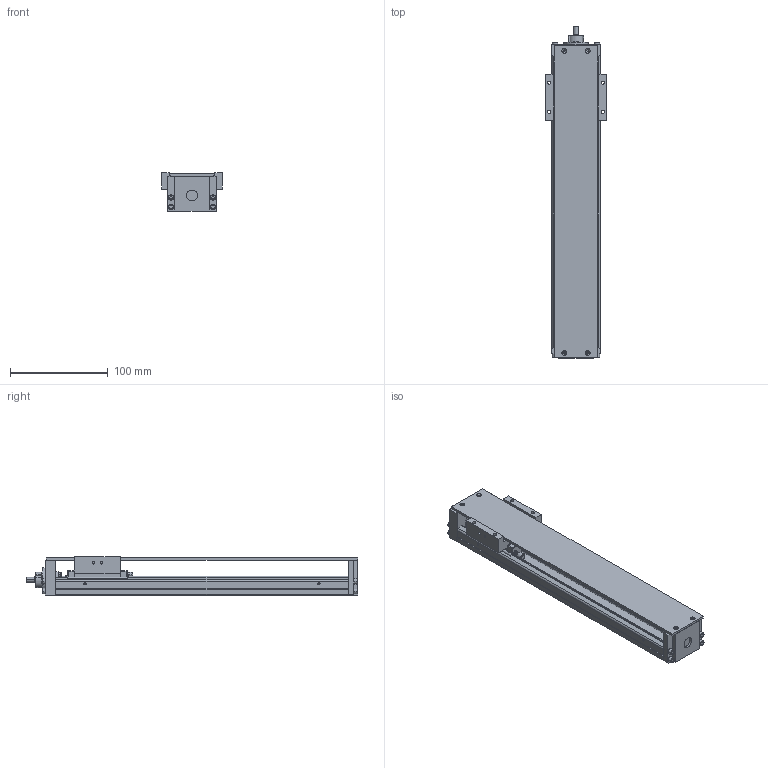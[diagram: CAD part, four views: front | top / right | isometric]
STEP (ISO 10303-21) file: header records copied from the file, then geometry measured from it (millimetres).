
FILE_DESCRIPTION(('no description'),'unknown implementation level');
FILE_NAME('KK5002P300A1H0C00_FILE_15.stp',' ',('HIWIN GmbH'),('CADClick - KiM GmbH - www.kimweb.de'),'unknown preprocess','ACIS','unknown authorization');
FILE_SCHEMA(('automotive_design'));
Length unit declared in the file: millimetre
Products named in the file (2): KK50_FILE; KK5002P300A1H0C00_FILE
Bounding box: 62 x 340.5 x 40 mm (x, y, z)
Volume: 298870.2 mm3; surface area: 116877.3 mm2
Topology: 2 solids, 14 shells, 808 faces, 2014 edges, 1277 vertices
Faces by surface type: plane 475, cylinder 233, cone 58, torus 42
Entity records: 47246 total; most frequent: CARTESIAN_POINT 4707, DIRECTION 4214, STYLED_ITEM 4075, PRESENTATION_STYLE_ASSIGNMENT 4075, COLOUR_RGB 4075, ORIENTED_EDGE 3976, EDGE_CURVE 1988, CURVE_STYLE 1988
